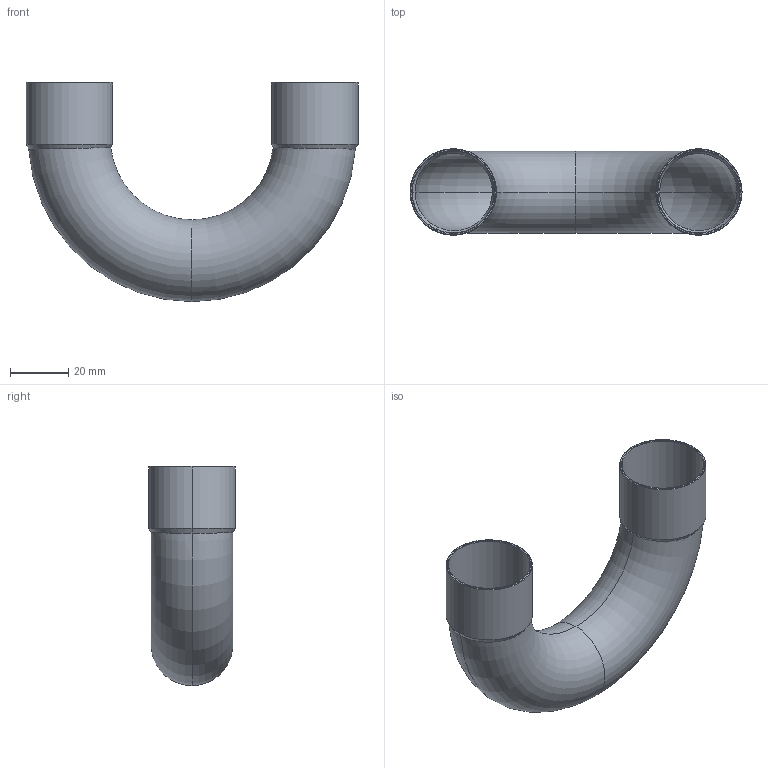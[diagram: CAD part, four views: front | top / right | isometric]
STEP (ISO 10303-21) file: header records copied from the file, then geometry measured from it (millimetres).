
FILE_DESCRIPTION((''),'2;1');
FILE_NAME('C:\sanha_work\5130\f\1506028.stp','2005-10-21T17:22:37',('Kris'),(''),'Autodesk Inventor 8','Autodesk Inventor 8','');
FILE_SCHEMA(('AUTOMOTIVE_DESIGN { 1 0 10303 214 1 1 1 1 }'));
Length unit declared in the file: millimetre
Products named in the file (1): 1506028
Bounding box: 113.6 x 29.6 x 75 mm (x, y, z)
Volume: 11814.9 mm3; surface area: 29657.4 mm2
Topology: 1 solids, 1 shells, 34 faces, 68 edges, 36 vertices
Faces by surface type: cone 12, bspline 9, torus 8, cylinder 4, plane 1
Entity records: 1131 total; most frequent: CARTESIAN_POINT 430, DIRECTION 148, ORIENTED_EDGE 136, EDGE_CURVE 68, AXIS2_PLACEMENT_3D 62, VERTEX_POINT 36, CIRCLE 36, EDGE_LOOP 36
